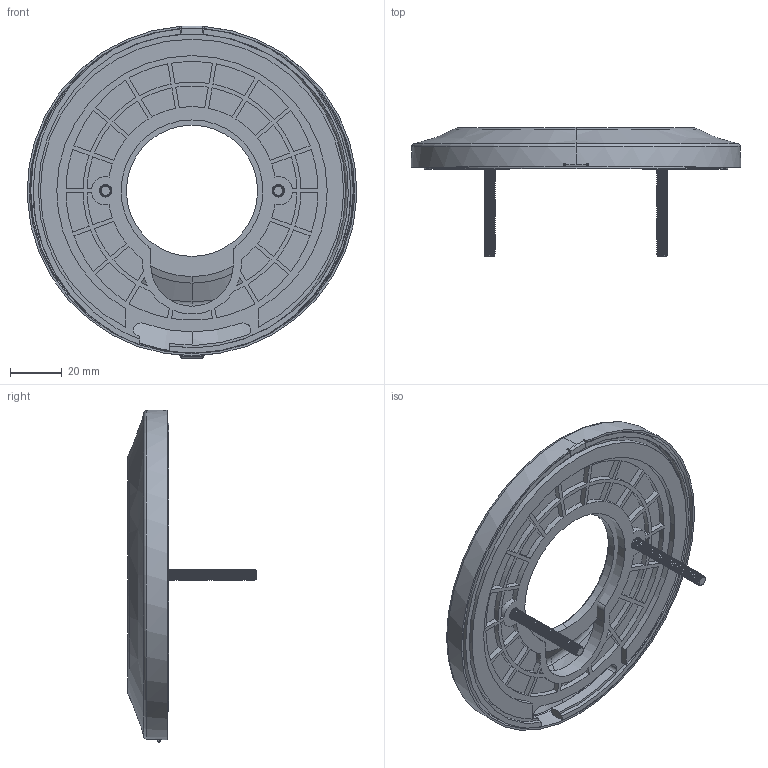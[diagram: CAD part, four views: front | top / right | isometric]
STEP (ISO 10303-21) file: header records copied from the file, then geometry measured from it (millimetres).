
FILE_DESCRIPTION (( 'STEP AP214' ), '1' );
FILE_NAME ('59DIVTRM.STEP', '2025-01-03T05:47:54', ( '' ), ( '' ), 'SwSTEP 2.0', 'SolidWorks 2023', '' );
FILE_SCHEMA (( 'AUTOMOTIVE_DESIGN' ));
Length unit declared in the file: inch
Products named in the file (1): 59DIVTRM
Bounding box: 126.91 x 49.65 x 127.87 mm (x, y, z)
Surface area: 52885.4 mm2 (no closed solid volume)
Topology: 0 solids, 28 shells, 1003 faces, 2569 edges, 1602 vertices
Faces by surface type: cylinder 509, cone 340, plane 132, torus 13, bspline 9
Entity records: 40504 total; most frequent: CARTESIAN_POINT 17390, ORIENTED_EDGE 4956, DIRECTION 4489, EDGE_CURVE 2569, AXIS2_PLACEMENT_3D 1688, VERTEX_POINT 1602, VECTOR 1113, LINE 1113
